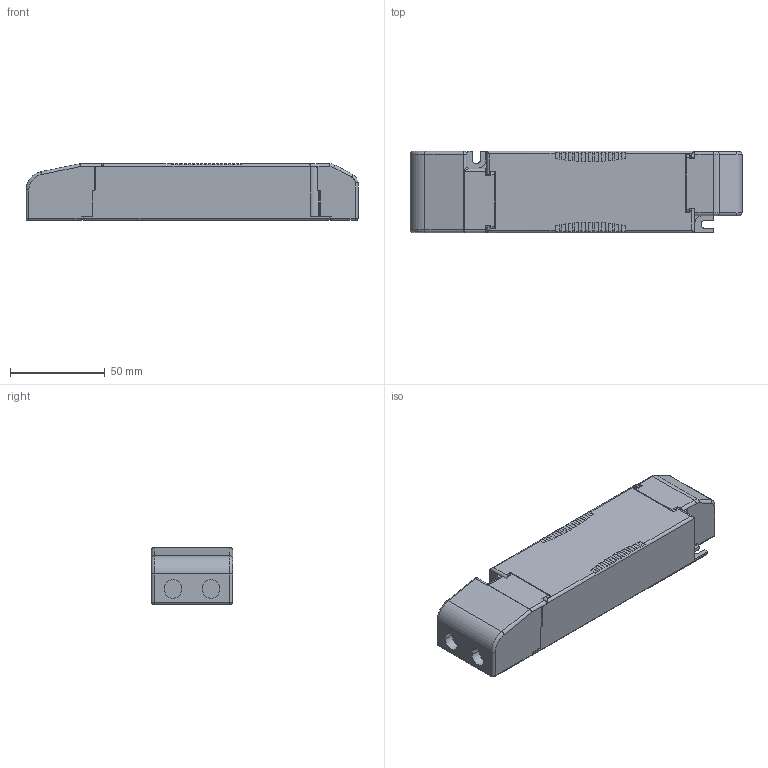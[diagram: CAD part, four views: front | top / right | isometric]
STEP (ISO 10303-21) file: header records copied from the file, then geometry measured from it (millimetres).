
FILE_DESCRIPTION((''),'2;1');
FILE_NAME('15014037Z_DATA_SC3_130_18W24VSN','2020-11-03T13:54:09',('Juergen.Hrach'),(''),'CREO PARAMETRIC BY PTC INC, 2019164','CREO PARAMETRIC BY PTC INC, 2019164','');
FILE_SCHEMA(('CONFIG_CONTROL_DESIGN'));
Length unit declared in the file: millimetre
Products named in the file (6): 15014037Z_DATA_SC3_130_18W24VSN; DEWI_SR-STD_DMEC; DEWI_SR-STD_DMEC_ASSY_130; DEWI_SR-MINI_DMEC; DEWI_SR-MINI_DMEC-ASSY_130
Assembly tree (5 placements, depth 3):
  15014037Z_DATA_SC3_130_18W24VSN
    15014037Z_DATA_SC3_130_18W24VSN
    DEWI_SR-STD_DMEC_ASSY_130
      DEWI_SR-STD_DMEC
    DEWI_SR-MINI_DMEC-ASSY_130
      DEWI_SR-MINI_DMEC
Bounding box: 175 x 43 x 29.8 mm (x, y, z)
Volume: 195596.8 mm3; surface area: 40659.2 mm2
Topology: 3 solids, 3 shells, 510 faces, 1386 edges, 895 vertices
Faces by surface type: plane 303, cylinder 174, sphere 14, torus 11, bspline 8
Entity records: 16481 total; most frequent: CARTESIAN_POINT 3192, DIRECTION 2789, ORIENTED_EDGE 2772, EDGE_CURVE 1386, VECTOR 967, LINE 967, AXIS2_PLACEMENT_3D 911, VERTEX_POINT 895
